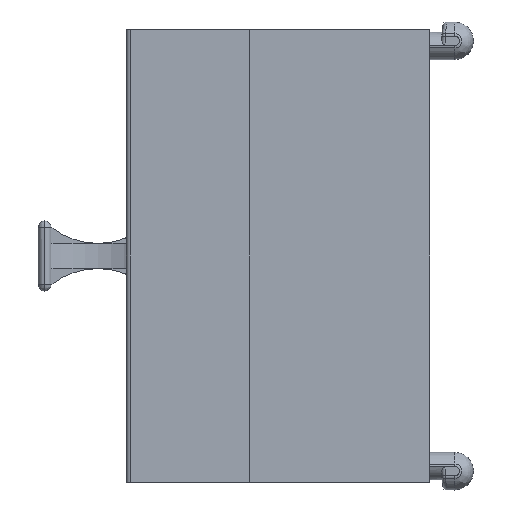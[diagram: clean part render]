
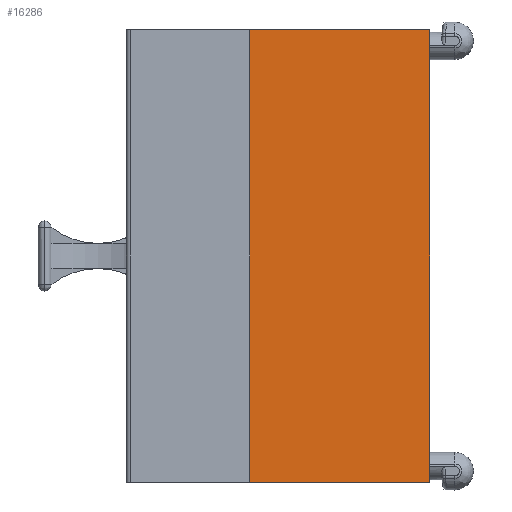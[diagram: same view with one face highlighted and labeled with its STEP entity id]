
A CAD part, left-side view. The second image highlights one B-rep face of the part: STEP entity #16286.
In plain terms, the highlighted planar face has unit normal (-1, 0, 0).
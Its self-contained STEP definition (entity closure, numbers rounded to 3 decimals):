
#2681=CARTESIAN_POINT(' ',(-12.2,-3.2,-18.));
#2682=VERTEX_POINT(' ',#2681);
#2696=CARTESIAN_POINT(' ',(-12.2,11.1,-18.));
#2701=DIRECTION(' ',(0.,-1.,0.));
#2706=VECTOR(' ',#2701,1.);
#2711=LINE('',#2696,#2706);
#2716=CARTESIAN_POINT(' ',(-12.2,11.1,-18.));
#2717=VERTEX_POINT(' ',#2716);
#2721=EDGE_CURVE(' ',#2717,#2682,#2711,.T.);
#4531=CARTESIAN_POINT(' ',(-12.2,11.1,18.));
#4532=VERTEX_POINT(' ',#4531);
#4546=CARTESIAN_POINT(' ',(-12.2,11.1,18.));
#4551=DIRECTION(' ',(0.,-1.,0.));
#4556=VECTOR(' ',#4551,1.);
#4561=LINE('',#4546,#4556);
#4566=CARTESIAN_POINT(' ',(-12.2,-3.2,18.));
#4567=VERTEX_POINT(' ',#4566);
#4571=EDGE_CURVE(' ',#4532,#4567,#4561,.T.);
#16106=CARTESIAN_POINT(' ',(-12.2,11.1,-18.));
#16111=DIRECTION(' ',(0.,0.,1.));
#16116=VECTOR(' ',#16111,1.);
#16121=LINE('',#16106,#16116);
#16126=EDGE_CURVE(' ',#2717,#4532,#16121,.T.);
#16206=CARTESIAN_POINT(' ',(-12.2,-3.2,18.));
#16211=DIRECTION(' ',(-1.,0.,0.));
#16216=DIRECTION(' ',(0.,1.,0.));
#16221=AXIS2_PLACEMENT_3D(' ',#16206,#16211,#16216);
#16226=PLANE(' ',#16221);
#16231=ORIENTED_EDGE(' ',*,*,#2721,.T.);
#16236=CARTESIAN_POINT(' ',(-12.2,-3.2,-18.));
#16241=DIRECTION(' ',(0.,0.,1.));
#16246=VECTOR(' ',#16241,1.);
#16251=LINE('',#16236,#16246);
#16256=EDGE_CURVE(' ',#2682,#4567,#16251,.T.);
#16261=ORIENTED_EDGE(' ',*,*,#16256,.T.);
#16266=ORIENTED_EDGE(' ',*,*,#4571,.F.);
#16271=ORIENTED_EDGE(' ',*,*,#16126,.F.);
#16276=EDGE_LOOP(' ',(#16231,#16261,#16266,#16271));
#16281=FACE_OUTER_BOUND(' ',#16276,.T.);
#16286=ADVANCED_FACE('',(#16281),#16226,.T.);
